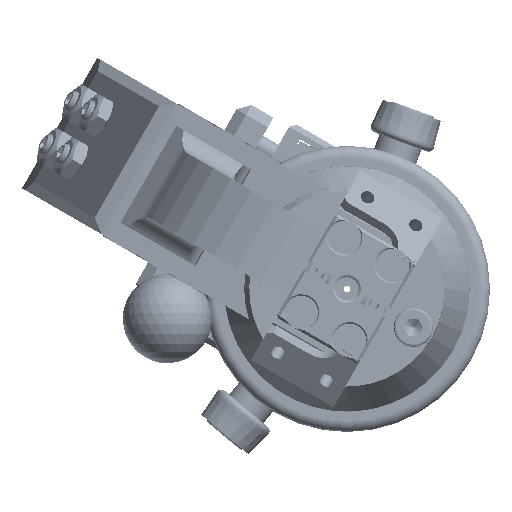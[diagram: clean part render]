
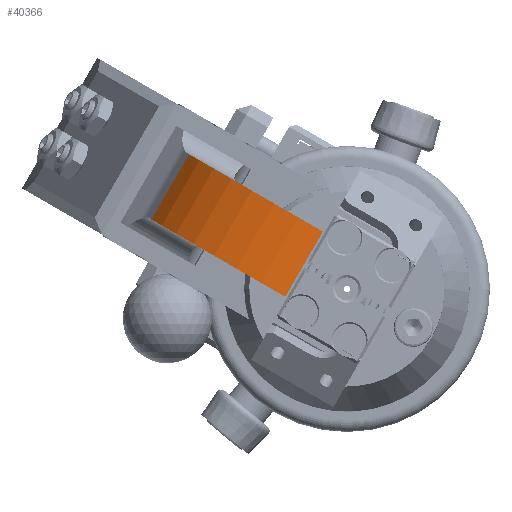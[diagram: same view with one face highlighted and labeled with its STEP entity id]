
A CAD part, front view. The second image highlights one B-rep face of the part: STEP entity #40366.
In plain terms, the highlighted cylindrical face has radius 29.5 mm (diameter 59 mm), a partial arc.
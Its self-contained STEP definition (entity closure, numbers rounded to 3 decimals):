
#3114=LINE($,#78597,#5632);
#3115=LINE($,#78600,#5633);
#5632=VECTOR($,#53154,13.5);
#5633=VECTOR($,#53157,13.5);
#9014=CYLINDRICAL_SURFACE($,#44284,29.5);
#11808=FACE_OUTER_BOUND($,#14873,.T.);
#14873=EDGE_LOOP($,(#33969,#33970,#33971,#33972));
#17167=CIRCLE($,#44285,29.5);
#17168=CIRCLE($,#44286,29.5);
#20254=VERTEX_POINT($,#78593);
#20255=VERTEX_POINT($,#78594);
#20256=VERTEX_POINT($,#78596);
#20257=VERTEX_POINT($,#78598);
#25073=EDGE_CURVE($,#20254,#20255,#17167,.T.);
#25074=EDGE_CURVE($,#20256,#20255,#3114,.T.);
#25075=EDGE_CURVE($,#20256,#20257,#17168,.T.);
#25076=EDGE_CURVE($,#20257,#20254,#3115,.T.);
#33969=ORIENTED_EDGE($,*,*,#25073,.T.);
#33970=ORIENTED_EDGE($,*,*,#25074,.F.);
#33971=ORIENTED_EDGE($,*,*,#25075,.T.);
#33972=ORIENTED_EDGE($,*,*,#25076,.T.);
#40366=ADVANCED_FACE($,(#11808),#9014,.T.);
#44284=AXIS2_PLACEMENT_3D($,#78592,#53150,#53151);
#44285=AXIS2_PLACEMENT_3D($,#78595,#53152,#53153);
#44286=AXIS2_PLACEMENT_3D($,#78599,#53155,#53156);
#53150=DIRECTION('center_axis',(-0.5,0.,
-0.866));
#53151=DIRECTION('ref_axis',(0.814,0.342,-0.47));
#53152=DIRECTION('center_axis',(-0.5,0.,
-0.866));
#53153=DIRECTION('ref_axis',(0.814,0.342,-0.47));
#53154=DIRECTION($,(0.5,0.,0.866));
#53155=DIRECTION('center_axis',(0.5,0.,
0.866));
#53156=DIRECTION('ref_axis',(-0.814,-0.342,0.47));
#53157=DIRECTION($,(0.5,0.,0.866));
#78592=CARTESIAN_POINT('Origin',(-512.166,102.539,24.376));
#78593=CARTESIAN_POINT('',(-508.791,73.039,30.222));
#78594=CARTESIAN_POINT('',(-532.799,92.449,44.082));
#78595=CARTESIAN_POINT('Origin',(-508.791,102.539,30.222));
#78596=CARTESIAN_POINT('',(-539.549,92.449,32.391));
#78597=CARTESIAN_POINT($,(-539.549,92.449,32.391));
#78598=CARTESIAN_POINT('',(-515.541,73.039,18.531));
#78599=CARTESIAN_POINT('Origin',(-515.541,102.539,18.531));
#78600=CARTESIAN_POINT($,(-515.541,73.039,18.531));
